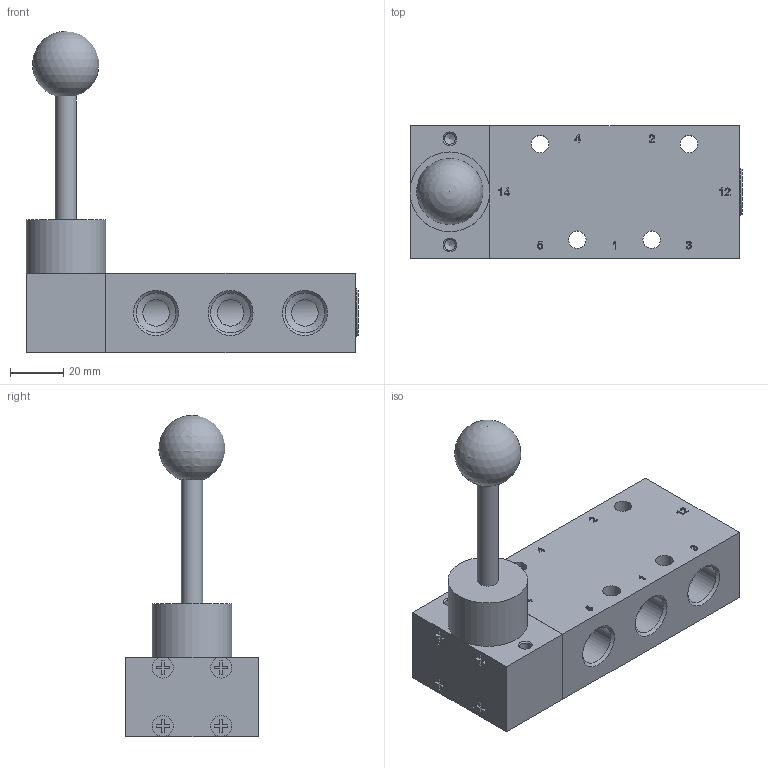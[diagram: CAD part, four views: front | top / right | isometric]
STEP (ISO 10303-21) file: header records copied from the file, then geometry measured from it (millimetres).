
FILE_DESCRIPTION(/* description */ ('Unknown','CAx-IF Rec.Pracs.---Representation and Presentation of Product Manufacturing Information (PMI)---4.0---2014-10-13','CAx-IF Rec.Pracs.---3D Tessellated Geometry---0.4---2014-09-14','2;1'),/* implementation_level */ '2;1');
FILE_NAME(/* name */ 'HV 531 101',/* time_stamp */ '2020-07-06T08:05:43+02:00',/* author */ ('Unknown'),/* organization */ ('Unknown'),/* preprocessor_version */ 'ST-DEVELOPER v16.7',/* originating_system */ 'DEX',/* authorisation */ $);
FILE_SCHEMA (('AP242_MANAGED_MODEL_BASED_3D_ENGINEERING_MIM_LF { 1 0 10303 442 20130219 1 4 }'));
Length unit declared in the file: millimetre
Products named in the file (2): HV 531 101
Assembly tree (1 placements, depth 2):
  HV 531 101
    HV 531 101
Bounding box: 125 x 50 x 121 mm (x, y, z)
Volume: 167375.5 mm3; surface area: 43890.6 mm2
Topology: 3 solids, 3 shells, 327 faces, 846 edges, 559 vertices
Faces by surface type: plane 220, cylinder 46, bspline 32, cone 27, sphere 1, torus 1
Full cylindrical faces by diameter (mm): 1.6 x1, 3.242 x8, 4.134 x4, 6.6 x4, 7.9 x4, 8 x1, 10 x5, 13 x1, 14 x1, 14.95 x10, 17 x2, 17.06 x1, 18 x1, 30 x1
Entity records: 12887 total; most frequent: CARTESIAN_POINT 3277, ORIENTED_EDGE 1466, DIRECTION 1352, EDGE_CURVE 733, LINE 570, VECTOR 570, VERTEX_POINT 525, FACE_BOUND 462
